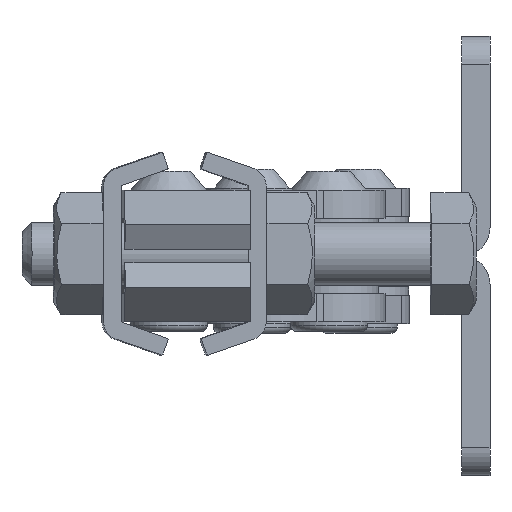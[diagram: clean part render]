
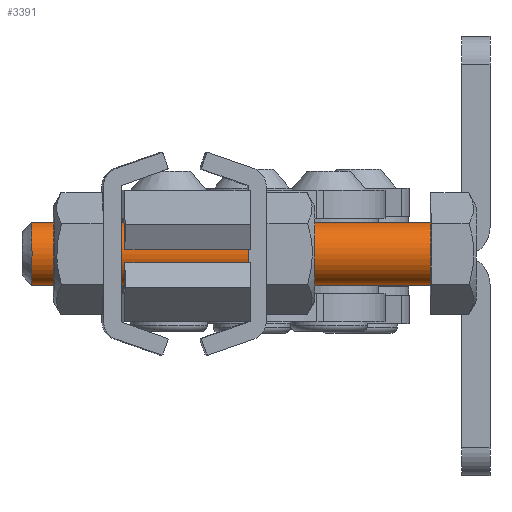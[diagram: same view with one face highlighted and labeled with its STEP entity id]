
A CAD part, left-side view. The second image highlights one B-rep face of the part: STEP entity #3391.
In plain terms, the highlighted cylindrical face has radius 5 mm (diameter 10 mm), a full revolution.
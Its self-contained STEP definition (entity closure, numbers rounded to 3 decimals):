
#504=FACE_OUTER_BOUND('',#739,.T.);
#739=EDGE_LOOP('',(#2906,#2907,#2908,#2909));
#979=LINE('',#5864,#1247);
#1247=VECTOR('',#4874,5.);
#1476=CIRCLE('',#3983,5.);
#1477=CIRCLE('',#3985,5.);
#1725=VERTEX_POINT('',#5859);
#1726=VERTEX_POINT('',#5863);
#2134=EDGE_CURVE('',#1725,#1725,#1476,.T.);
#2135=EDGE_CURVE('',#1725,#1726,#979,.T.);
#2136=EDGE_CURVE('',#1726,#1726,#1477,.T.);
#2906=ORIENTED_EDGE('',*,*,#2134,.F.);
#2907=ORIENTED_EDGE('',*,*,#2135,.T.);
#2908=ORIENTED_EDGE('',*,*,#2136,.F.);
#2909=ORIENTED_EDGE('',*,*,#2135,.F.);
#3240=CYLINDRICAL_SURFACE('',#3984,5.);
#3391=ADVANCED_FACE('',(#504),#3240,.T.);
#3983=AXIS2_PLACEMENT_3D('',#5861,#4870,#4871);
#3984=AXIS2_PLACEMENT_3D('',#5862,#4872,#4873);
#3985=AXIS2_PLACEMENT_3D('',#5865,#4875,#4876);
#4870=DIRECTION('center_axis',(0.,0.,-1.));
#4871=DIRECTION('ref_axis',(1.,0.,0.));
#4872=DIRECTION('center_axis',(0.,0.,-1.));
#4873=DIRECTION('ref_axis',(1.,0.,0.));
#4874=DIRECTION('',(0.,0.,1.));
#4875=DIRECTION('center_axis',(0.,0.,1.));
#4876=DIRECTION('ref_axis',(1.,0.,0.));
#5859=CARTESIAN_POINT('',(-5.,0.,-63.5));
#5861=CARTESIAN_POINT('Origin',(0.,0.,-63.5));
#5862=CARTESIAN_POINT('Origin',(0.,0.,0.));
#5863=CARTESIAN_POINT('',(-5.,0.,0.));
#5864=CARTESIAN_POINT('',(-5.,0.,0.));
#5865=CARTESIAN_POINT('Origin',(0.,0.,0.));
